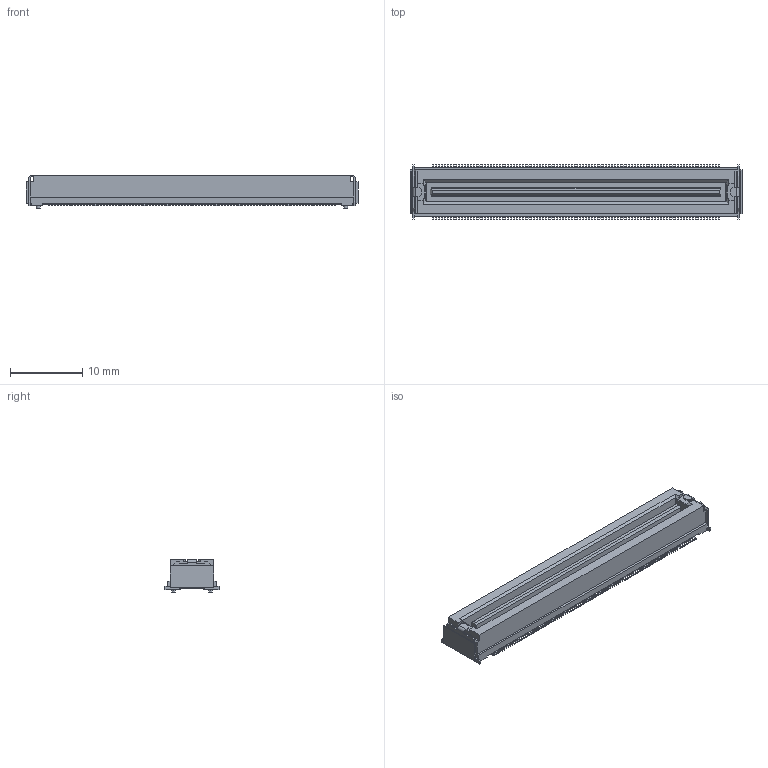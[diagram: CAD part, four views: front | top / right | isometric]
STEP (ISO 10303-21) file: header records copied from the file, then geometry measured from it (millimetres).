
FILE_DESCRIPTION(('Creo Elements/Direct Modeling STEP Export'),'2;1');
FILE_NAME('P3D161_DU01-200SB.stp','2017-11-27T15:57:16',(''),(''),'Creo Elements/Direct Modeling STEP processor for AP214 (Solid Model)','Creo Elements/Direct Modeling 19.0F 14-Feb-2017 (C) Parametric Technology GmbH','');
FILE_SCHEMA(('AUTOMOTIVE_DESIGN { 1 0 10303 214 1 1 1 1 }'));
Length unit declared in the file: millimetre
Products named in the file (2): DU01-200SB
Assembly tree (1 placements, depth 2):
  DU01-200SB
    DU01-200SB
Bounding box: 46.1 x 7.5 x 4.7 mm (x, y, z)
Volume: 912.4 mm3; surface area: 1619.4 mm2
Topology: 1 solids, 1 shells, 1904 faces, 5373 edges, 3574 vertices
Faces by surface type: plane 1480, cylinder 420, cone 4
Entity records: 60838 total; most frequent: CARTESIAN_POINT 10801, ORIENTED_EDGE 10746, DIRECTION 9929, EDGE_CURVE 5373, VECTOR 4525, LINE 4525, VERTEX_POINT 3574, AXIS2_PLACEMENT_3D 2702
